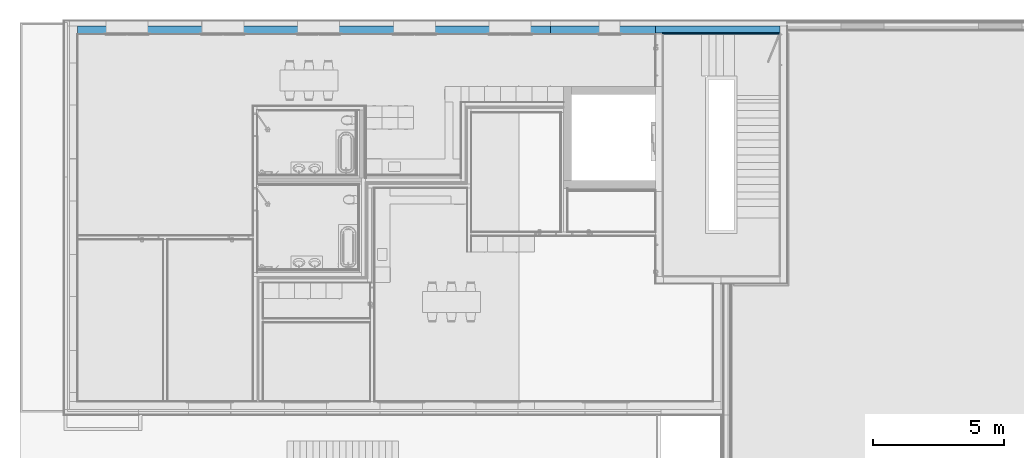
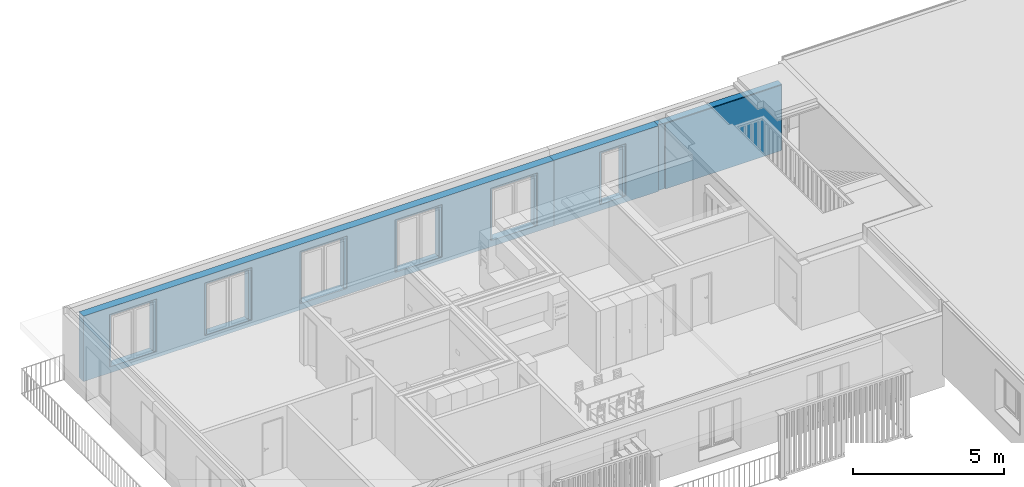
# One storey, part 19 of 34: 4 building element parts, 6 openings, 3 elements without a shape of their own.
"""IFC4 building model written with IfcOpenShell, lengths in millimetres."""

import ifcopenshell
import ifcopenshell.guid

model = None  # the IFC model being written
_history = None  # IfcOwnerHistory: only IFC2X3 demands one
_inside = {}  # id of a spatial element -> (the spatial element, [elements in it])
_under = {}  # id of a project, library or spatial element -> (it, [spatial elements below it])
_declared = {}  # id of a project -> (the project, [libraries it declares])
_typed = {}  # id of a type object -> (the type object, [elements of that type])
_made_of = {}  # id of a material, layer set ... -> (it, [elements and type objects made of it])


def new_model(schema):
    """Start an empty IFC model of exactly this schema.

    Asked for "IFC4X3", IfcOpenShell would pick the latest addendum, in which some entities
    have other attributes; the version numbers below select the first issue.
    IFC2X3 requires an IfcOwnerHistory on every rooted entity: one is made here for all.
    """
    global model, _history
    if schema == "IFC4X3":
        model = ifcopenshell.file(schema_version=(4, 3, 0, 0))
    else:
        model = ifcopenshell.file(schema=schema)
    _inside.clear()
    _under.clear()
    _declared.clear()
    _typed.clear()
    _made_of.clear()
    _history = None
    if model.schema == "IFC2X3":
        org = make("IfcOrganization", Name="unknown")
        user = make(
            "IfcPersonAndOrganization",
            ThePerson=make("IfcPerson", FamilyName="unknown"),
            TheOrganization=org,
        )
        app = make(
            "IfcApplication",
            ApplicationDeveloper=org,
            Version="unknown",
            ApplicationFullName="unknown",
            ApplicationIdentifier="unknown",
        )
        _history = make(
            "IfcOwnerHistory",
            OwningUser=user,
            OwningApplication=app,
            ChangeAction="ADDED",
            CreationDate=0,
        )
    return model


def make(cls, **values):
    """One entity of the class cls with the attributes given. An attribute that is None is left unset."""
    return model.create_entity(
        cls, **{name: value for name, value in values.items() if value is not None}
    )


def entity(cls, *values):
    """Any entity or typed value of the class cls, its attributes in the order of the schema. None: left unset."""
    e = model.create_entity(cls)
    for i, value in enumerate(values):
        if value is not None:
            e[i] = value
    return e


def rooted(cls, **values):
    """An entity with a GlobalId (a new one), such as an element, a storey or a relation."""
    return make(cls, GlobalId=ifcopenshell.guid.new(), OwnerHistory=_history, **values)


def si_unit(unit_type, name, prefix=None):
    """IfcSIUnit, for example si_unit("LENGTHUNIT", "METRE", prefix="MILLI")."""
    return make("IfcSIUnit", UnitType=unit_type, Prefix=prefix, Name=name)


def converted_unit(unit_type, name, factor, base, dimensions=None, offset=None):
    """IfcConversionBasedUnit, such as the inch: factor (a typed value) times the base unit."""
    return make(
        "IfcConversionBasedUnit"
        if offset is None
        else "IfcConversionBasedUnitWithOffset",
        ConversionOffset=offset,
        Dimensions=None
        if dimensions is None
        else entity("IfcDimensionalExponents", *dimensions),
        UnitType=unit_type,
        Name=name,
        ConversionFactor=make(
            "IfcMeasureWithUnit", ValueComponent=factor, UnitComponent=base
        ),
    )


def derived_unit(unit_type, elements):
    """IfcDerivedUnit: a product of units, each with its exponent."""
    return make(
        "IfcDerivedUnit",
        Elements=[
            make("IfcDerivedUnitElement", Unit=unit, Exponent=power)
            for unit, power in elements
        ],
        UnitType=unit_type,
    )


def assignment(units):
    """IfcUnitAssignment: the units of a project."""
    return None if units is None else make("IfcUnitAssignment", Units=units)


def point(xyz):
    """IfcCartesianPoint."""
    return None if xyz is None else make("IfcCartesianPoint", Coordinates=xyz)


def direction(xyz):
    """IfcDirection."""
    return None if xyz is None else make("IfcDirection", DirectionRatios=xyz)


def frame(location, z_axis=None, x_axis=None):
    """IfcAxis2Placement3D, a coordinate frame: its origin and axes. An axis left out is left unset."""
    return make(
        "IfcAxis2Placement3D",
        Location=point(location),
        Axis=direction(z_axis),
        RefDirection=direction(x_axis),
    )


def origin_with_axes():
    """The frame at (0, 0, 0) with the z axis (0, 0, 1) and the x axis (1, 0, 0) written out."""
    return frame((0.0, 0.0, 0.0), z_axis=(0.0, 0.0, 1.0), x_axis=(1.0, 0.0, 0.0))


def place(relative_to, where):
    """IfcLocalPlacement: puts the frame where relative to a parent placement (None: the world)."""
    return make(
        "IfcLocalPlacement", PlacementRelTo=relative_to, RelativePlacement=where
    )


def context(
    kind, dimensions, precision=None, world=None, true_north=None, identifier=None
):
    """IfcGeometricRepresentationContext, for example the 3D "Model" context."""
    return make(
        "IfcGeometricRepresentationContext",
        ContextIdentifier=identifier,
        ContextType=kind,
        CoordinateSpaceDimension=dimensions,
        Precision=precision,
        WorldCoordinateSystem=world,
        TrueNorth=true_north,
    )


def subcontext(parent, identifier, kind, view, scale=None):
    """IfcGeometricRepresentationSubContext, for example "Body" below "Model"."""
    return make(
        "IfcGeometricRepresentationSubContext",
        ContextIdentifier=identifier,
        ContextType=kind,
        ParentContext=parent,
        TargetScale=scale,
        TargetView=view,
    )


def project(units=None, contexts=None):
    """IfcProject with its units and contexts."""
    return rooted(
        "IfcProject",
        Name="project",
        RepresentationContexts=contexts,
        UnitsInContext=assignment(units),
    )


def spatial(cls, under=None, at=None, **own):
    """A site, building, storey or space (cls), placed at a placement, below another one or the project."""
    s = rooted(cls, ObjectPlacement=at, **own)
    if under is not None:
        _under.setdefault(under.id(), (under, []))[1].append(s)
    return s


def point_list(points):
    """IfcCartesianPointList2D or 3D."""
    cls = (
        "IfcCartesianPointList2D" if len(points[0]) == 2 else "IfcCartesianPointList3D"
    )
    return make(cls, CoordList=points)


def polygons(points, faces, closed=None, point_numbers=None):
    """IfcPolygonalFaceSet: a face is its outer loop, then its inner loops; points numbered from 1."""
    made = []
    for loops in faces:
        if len(loops) == 1:
            made.append(make("IfcIndexedPolygonalFace", CoordIndex=loops[0]))
        else:
            made.append(
                make(
                    "IfcIndexedPolygonalFaceWithVoids",
                    CoordIndex=loops[0],
                    InnerCoordIndices=loops[1:],
                )
            )
    return make(
        "IfcPolygonalFaceSet",
        Coordinates=point_list(points),
        Closed=closed,
        Faces=made,
        PnIndex=point_numbers,
    )


def shape(context_of_items, identifier, shape_type, items):
    """IfcShapeRepresentation: the items that make up one representation, for example the "Body"."""
    return make(
        "IfcShapeRepresentation",
        ContextOfItems=context_of_items,
        RepresentationIdentifier=identifier,
        RepresentationType=shape_type,
        Items=items,
    )


def material(Name=None, Category=None):
    """IfcMaterial."""
    return make("IfcMaterial", Name=Name, Category=Category)


def made_of(thing, what):
    """Note that an element or type object is made of a material, layer set ...; save() writes the relation."""
    if what is not None:
        _made_of.setdefault(what.id(), (what, []))[1].append(thing)
    return thing


def type_object(cls, material=None, **own):
    """A type object (cls), such as IfcWallType, which elements share."""
    return made_of(rooted(cls, **own), material)


def element(
    cls,
    number,
    at=None,
    inside=None,
    cuts=None,
    type_object=None,
    material=None,
    context=None,
    identifier="Body",
    shape_type=None,
    held_by="IfcProductDefinitionShape",
    body=None,
    shapes=None,
    **own,
):
    """One element of the class cls, such as IfcWall. Its Tag is "e" and its number.

    at: its placement. inside: the storey or other place that contains it. cuts: it is an
    opening in that element (IfcRelVoidsElement). A single representation is given by context,
    identifier, shape_type and body (its items); several are given by shapes. held_by: the class
    of the entity that holds the representations. save() writes the other relations.
    """
    e = rooted(cls, Tag="e%d" % number, ObjectPlacement=at, **own)
    if body is not None:
        shapes = [shape(context, identifier, shape_type, body)]
    if shapes is not None:
        e.Representation = make(held_by, Representations=shapes)
    if inside is not None:
        _inside.setdefault(inside.id(), (inside, []))[1].append(e)
    if cuts is not None:
        rooted(
            "IfcRelVoidsElement", RelatingBuildingElement=cuts, RelatedOpeningElement=e
        )
    if type_object is not None:
        _typed.setdefault(type_object.id(), (type_object, []))[1].append(e)
    return made_of(e, material)


def aggregate(whole, parts):
    """IfcRelAggregates: a whole, such as a stair, and the parts it consists of."""
    return rooted("IfcRelAggregates", RelatingObject=whole, RelatedObjects=parts)


def save(model, path):
    """Write the relations noted so far, then the file.

    IfcRelAggregates (storeys below a building ...), IfcRelContainedInSpatialStructure (elements
    in a storey), IfcRelDefinesByType, IfcRelAssociatesMaterial and IfcRelDeclares: one each for
    every whole, place, type object, material and project.
    """
    for whole, parts in _under.values():
        aggregate(whole, parts)
    for where, things in _inside.values():
        rooted(
            "IfcRelContainedInSpatialStructure",
            RelatedElements=things,
            RelatingStructure=where,
        )
    for kind, things in _typed.values():
        rooted("IfcRelDefinesByType", RelatedObjects=things, RelatingType=kind)
    for what, things in _made_of.values():
        rooted("IfcRelAssociatesMaterial", RelatedObjects=things, RelatingMaterial=what)
    for by, libraries in _declared.values():
        rooted("IfcRelDeclares", RelatingContext=by, RelatedDefinitions=libraries)
    model.write(path)


model = new_model("IFC4")

# Units and contexts
model_context = context("Model", 3, precision=0.01, world=origin_with_axes(), true_north=direction((0.0, 1.0)))
body_context = subcontext(model_context, "Body", "Model", "MODEL_VIEW")
ifc_project = project(units=[si_unit("LENGTHUNIT", "METRE", prefix="MILLI"), si_unit("AREAUNIT", "SQUARE_METRE"), si_unit("VOLUMEUNIT", "CUBIC_METRE"), converted_unit("PLANEANGLEUNIT", "DEGREE", entity("IfcPlaneAngleMeasure", 0.0174532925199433), si_unit("PLANEANGLEUNIT", "RADIAN"), dimensions=[0, 0, 0, 0, 0, 0, 0]), converted_unit("TIMEUNIT", "Year", entity("IfcTimeMeasure", 31557600.0), si_unit("TIMEUNIT", "SECOND"), dimensions=[0, 0, 1, 0, 0, 0, 0]), si_unit("MASSUNIT", "GRAM", prefix="KILO"), si_unit("THERMODYNAMICTEMPERATUREUNIT", "DEGREE_CELSIUS"), si_unit("LUMINOUSINTENSITYUNIT", "LUMEN"), si_unit("ENERGYUNIT", "JOULE", prefix="MEGA"), derived_unit("THERMALCONDUCTANCEUNIT", [(si_unit("POWERUNIT", "WATT"), 1), (si_unit("LENGTHUNIT", "METRE"), -1), (si_unit("THERMODYNAMICTEMPERATUREUNIT", "KELVIN"), -1)]), derived_unit("SPECIFICHEATCAPACITYUNIT", [(si_unit("ENERGYUNIT", "JOULE"), 1), (si_unit("MASSUNIT", "GRAM", prefix="KILO"), -1), (si_unit("THERMODYNAMICTEMPERATUREUNIT", "KELVIN"), -1)]), derived_unit("MASSDENSITYUNIT", [(si_unit("MASSUNIT", "GRAM", prefix="KILO"), 1), (si_unit("VOLUMEUNIT", "CUBIC_METRE"), -1)])], contexts=[model_context])

# Site, building, storey
site_placement = place(None, origin_with_axes())
site = spatial("IfcSite", under=ifc_project, at=site_placement, Name="Gelände", CompositionType="ELEMENT")
building_placement = place(site_placement, origin_with_axes())
building = spatial("IfcBuilding", under=site, at=building_placement, Name="Gebäude", CompositionType="ELEMENT")
storey_placement = place(building_placement, frame((0.0, 0.0, 2900.0), z_axis=(0.0, 0.0, 1.0), x_axis=(1.0, 0.0, 0.0)))
storey = spatial("IfcBuildingStorey", under=building, at=storey_placement, Name="1.OG", CompositionType="ELEMENT", Elevation=2900.0)

# Wall, opening, building element part
wall_type_1 = type_object("IfcWallType", Name="Aussenwand Typ 06 310", PredefinedType="NOTDEFINED")
wall_1_placement = place(storey_placement, frame((11428.998626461, 37427.59728131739, 0.0), z_axis=(0.0, 0.0, 1.0), x_axis=(1.0, 0.0, 0.0)))
wall_1 = element("IfcWall", 1, at=wall_1_placement, inside=storey, type_object=wall_type_1, Name="Wand-014", PredefinedType="NOTDEFINED")
opening_1_placement = place(wall_1_placement, frame((2249.998818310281, 0.0, 309.999948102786), z_axis=(0.0, 0.0, 1.0), x_axis=(1.0, 0.0, 0.0)))
element("IfcOpeningElement", 2, at=opening_1_placement, cuts=wall_1, Name="Fenster-004", context=body_context, identifier="Reference", shape_type="Tessellation", body=[
    polygons([(400.0000000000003, 310.9999999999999, 1959.999999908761), (400.0000000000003, 310.9999999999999, 1961.999999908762), (401.9999999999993, 310.9999999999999, 1961.999999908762), (401.9999999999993, 310.9999999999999, -60.00000000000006), (-401.9999999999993, 310.9999999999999, -60.00000000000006), (-401.9999999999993, 310.9999999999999, 1961.999999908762), (-400.0000000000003, 310.9999999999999, 1961.999999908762), (-400.0000000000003, 310.9999999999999, 1959.999999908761), (400.0000000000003, 310.0000000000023, 1961.999999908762), (400.0000000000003, 460.0000000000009, 1959.999999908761), (400.0000000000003, 460.0000000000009, 2249.999999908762), (400.0000000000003, 310.0000000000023, 2249.999999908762), (-400.0000000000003, 310.0000000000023, 1961.999999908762), (-401.9999999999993, 60.00000000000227, 1961.999999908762), (401.9999999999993, 60.00000000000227, 1961.999999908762), (401.9999999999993, 60.00000000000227, -60.00000000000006), (-401.9999999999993, 60.00000000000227, -60.00000000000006), (-400.0000000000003, 310.0000000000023, 2249.999999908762), (-400.0000000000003, 460.0000000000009, 2249.999999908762), (-400.0000000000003, 460.0000000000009, 1959.999999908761), (-502.0000000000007, 60.00000000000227, -60.00000000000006), (-502.0000000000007, 60.00000000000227, 2061.999999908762), (502.0000000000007, 60.00000000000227, 2061.999999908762), (502.0000000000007, 60.00000000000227, -60.00000000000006), (502.0000000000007, -0.9999999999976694, -60.00000000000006), (-502.0000000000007, -0.9999999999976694, -60.00000000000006), (-502.0000000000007, -0.9999999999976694, 2061.999999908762), (502.0000000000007, -0.9999999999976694, 2061.999999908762)], [[[1, 2, 3, 4, 5, 6, 7, 8]], [[9, 2, 1, 10, 11, 12]], [[13, 7, 6, 14, 15, 3, 2, 9]], [[15, 16, 4, 3]], [[16, 17, 5, 4]], [[17, 14, 6, 5]], [[8, 7, 13, 18, 19, 20]], [[1, 8, 20, 10]], [[20, 19, 11, 10]], [[19, 18, 12, 11]], [[13, 9, 12, 18]], [[16, 15, 14, 17, 21, 22, 23, 24]], [[17, 16, 24, 25, 26, 21]], [[22, 21, 26, 27]], [[23, 22, 27, 28]], [[24, 23, 28, 25]], [[27, 26, 25, 28]]], closed=True),
])
ifc_material_1 = material(Name="Beton bewehrt")
building_element_part_1_placement = place(wall_1_placement, origin_with_axes())
building_element_part_1 = element("IfcBuildingElementPart", 3, at=building_element_part_1_placement, material=ifc_material_1, Name="Beton bewehrt", PredefinedType="NOTDEFINED", context=body_context, shape_type="Tessellation", body=[
    polygons([(2651.998818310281, 60.00000000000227, 249.9999481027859), (2651.998818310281, 60.00000000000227, 2271.999948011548), (2651.998818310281, 310.0000000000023, 2271.999948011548), (2651.998818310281, 310.0000000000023, 249.9999481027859), (1847.998818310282, 60.00000000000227, 2271.999948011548), (2751.998818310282, 60.00000000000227, 249.9999481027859), (2751.998818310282, 60.00000000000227, 2371.999948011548), (1747.998818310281, 60.00000000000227, 2371.999948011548), (1747.998818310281, 60.00000000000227, 249.9999481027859), (1847.998818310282, 60.00000000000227, 249.9999481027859), (1847.998818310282, 310.0000000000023, 2271.999948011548), (0.0, 310.0000000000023, 0.0), (0.0, 310.0000000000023, 2649.999999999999), (3999.998818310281, 310.0000000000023, 2649.999999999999), (3999.998818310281, 310.0000000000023, 0.0), (1847.998818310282, 310.0000000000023, 249.9999481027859), (1747.998818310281, 9.99999999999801, 249.9999481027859), (2751.998818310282, 9.99999999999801, 249.9999481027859), (2751.998818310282, 9.99999999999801, 2371.999948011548), (1747.998818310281, 9.99999999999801, 2371.999948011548), (0.0, 9.99999999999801, 0.0), (0.0, 9.99999999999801, 2649.999999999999), (3999.998818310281, 9.99999999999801, 2649.999999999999), (3999.998818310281, 9.99999999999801, 0.0)], [[[1, 2, 3, 4]], [[5, 2, 1, 6, 7, 8, 9, 10]], [[2, 5, 11, 3]], [[12, 13, 14, 15], [4, 3, 11, 16]], [[10, 1, 4, 16]], [[17, 18, 6, 1, 10, 9]], [[18, 19, 7, 6]], [[19, 20, 8, 7]], [[20, 17, 9, 8]], [[5, 10, 16, 11]], [[13, 12, 21, 22]], [[13, 22, 23, 14]], [[24, 15, 14, 23]], [[21, 12, 15, 24]], [[22, 21, 24, 23], [17, 20, 19, 18]]], closed=True),
])
aggregate(wall_1, [building_element_part_1])

# Wall, openings, building element part
wall_2_placement = place(storey_placement, frame((-6861.004181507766, 37737.5972813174, 0.0), z_axis=(0.0, 0.0, 1.0), x_axis=(1.0, 0.0, 0.0)))
wall_2 = element("IfcWall", 4, at=wall_2_placement, inside=storey, type_object=wall_type_1, Name="Wand-014", PredefinedType="NOTDEFINED")
opening_2_placement = place(wall_2_placement, frame((2191.999999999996, 0.0, 309.999948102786), z_axis=(0.0, 0.0, 1.0), x_axis=(1.0, 0.0, 0.0)))
element("IfcOpeningElement", 5, at=opening_2_placement, cuts=wall_2, Name="Fenster-004", context=body_context, identifier="Reference", shape_type="Tessellation", body=[
    polygons([(800.0000000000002, 0.9999999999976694, 1959.999999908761), (800.0000000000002, 0.9999999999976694, 1961.999999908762), (802.0, 0.9999999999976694, 1961.999999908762), (802.0, 0.9999999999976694, -60.00000000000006), (-802.0000000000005, 0.9999999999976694, -60.00000000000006), (-802.0000000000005, 0.9999999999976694, 1961.999999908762), (-799.9999999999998, 0.9999999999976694, 1961.999999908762), (-799.9999999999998, 0.9999999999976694, 1959.999999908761), (800.0000000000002, 0.0, 1961.999999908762), (800.0000000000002, 149.9999999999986, 1959.999999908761), (800.0000000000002, 149.9999999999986, 2249.999999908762), (800.0000000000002, 0.0, 2249.999999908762), (-799.9999999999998, 0.0, 1961.999999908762), (-802.0000000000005, -250.0, 1961.999999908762), (802.0, -250.0, 1961.999999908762), (802.0, -250.0, -60.00000000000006), (-802.0000000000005, -250.0, -60.00000000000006), (-799.9999999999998, 0.0, 2249.999999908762), (-799.9999999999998, 149.9999999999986, 2249.999999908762), (-799.9999999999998, 149.9999999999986, 1959.999999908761), (-902.0000000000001, -250.0, -60.00000000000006), (-902.0000000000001, -250.0, 2061.999999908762), (902.0000000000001, -250.0, 2061.999999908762), (902.0000000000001, -250.0, -60.00000000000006), (902.0000000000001, -310.9999999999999, -60.00000000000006), (-902.0000000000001, -310.9999999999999, -60.00000000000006), (-902.0000000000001, -310.9999999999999, 2061.999999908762), (902.0000000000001, -310.9999999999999, 2061.999999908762)], [[[1, 2, 3, 4, 5, 6, 7, 8]], [[9, 2, 1, 10, 11, 12]], [[13, 7, 6, 14, 15, 3, 2, 9]], [[15, 16, 4, 3]], [[16, 17, 5, 4]], [[17, 14, 6, 5]], [[8, 7, 13, 18, 19, 20]], [[1, 8, 20, 10]], [[20, 19, 11, 10]], [[19, 18, 12, 11]], [[13, 9, 12, 18]], [[16, 15, 14, 17, 21, 22, 23, 24]], [[17, 16, 24, 25, 26, 21]], [[22, 21, 26, 27]], [[23, 22, 27, 28]], [[24, 23, 28, 25]], [[27, 26, 25, 28]]], closed=True),
])
opening_3_placement = place(wall_2_placement, frame((5833.999999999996, 0.0, 309.999948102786), z_axis=(0.0, 0.0, 1.0), x_axis=(1.0, 0.0, 0.0)))
element("IfcOpeningElement", 6, at=opening_3_placement, cuts=wall_2, Name="Fenster-004", context=body_context, identifier="Reference", shape_type="Tessellation", body=[
    polygons([(800.0000000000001, 0.9999999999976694, 1959.999999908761), (800.0000000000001, 0.9999999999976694, 1961.999999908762), (802.0000000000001, 0.9999999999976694, 1961.999999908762), (802.0000000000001, 0.9999999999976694, -60.00000000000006), (-802.0, 0.9999999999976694, -60.00000000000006), (-802.0, 0.9999999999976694, 1961.999999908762), (-800.0000000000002, 0.9999999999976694, 1961.999999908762), (-800.0000000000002, 0.9999999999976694, 1959.999999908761), (800.0000000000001, 0.0, 1961.999999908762), (800.0000000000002, 149.9999999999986, 1959.999999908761), (800.0000000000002, 149.9999999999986, 2249.999999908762), (800.0000000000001, 0.0, 2249.999999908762), (-800.0000000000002, 0.0, 1961.999999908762), (-802.0, -250.0, 1961.999999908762), (802.0000000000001, -250.0, 1961.999999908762), (802.0000000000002, -250.0, -60.00000000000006), (-802.0, -250.0, -60.00000000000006), (-800.0000000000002, 0.0, 2249.999999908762), (-800.0, 149.9999999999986, 2249.999999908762), (-800.0, 149.9999999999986, 1959.999999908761), (-902.0000000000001, -250.0, -60.00000000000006), (-902.0000000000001, -250.0, 2061.999999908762), (902.0000000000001, -250.0, 2061.999999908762), (902.0000000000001, -250.0, -60.00000000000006), (902.0000000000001, -310.9999999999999, -60.00000000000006), (-902.0000000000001, -310.9999999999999, -60.00000000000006), (-902.0000000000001, -310.9999999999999, 2061.999999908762), (902.0000000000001, -310.9999999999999, 2061.999999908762)], [[[1, 2, 3, 4, 5, 6, 7, 8]], [[9, 2, 1, 10, 11, 12]], [[13, 7, 6, 14, 15, 3, 2, 9]], [[15, 16, 4, 3]], [[16, 17, 5, 4]], [[17, 14, 6, 5]], [[8, 7, 13, 18, 19, 20]], [[1, 8, 20, 10]], [[20, 19, 11, 10]], [[19, 18, 12, 11]], [[13, 9, 12, 18]], [[16, 15, 14, 17, 21, 22, 23, 24]], [[17, 16, 24, 25, 26, 21]], [[22, 21, 26, 27]], [[23, 22, 27, 28]], [[24, 23, 28, 25]], [[27, 26, 25, 28]]], closed=True),
])
opening_4_placement = place(wall_2_placement, frame((13118.0, 0.0, 309.999948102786), z_axis=(0.0, 0.0, 1.0), x_axis=(1.0, 0.0, 0.0)))
element("IfcOpeningElement", 7, at=opening_4_placement, cuts=wall_2, Name="Fenster-004", context=body_context, identifier="Reference", shape_type="Tessellation", body=[
    polygons([(799.9999999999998, 0.9999999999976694, 1959.999999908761), (799.9999999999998, 0.9999999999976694, 1961.999999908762), (802.0000000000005, 0.9999999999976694, 1961.999999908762), (802.0000000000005, 0.9999999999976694, -60.00000000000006), (-802.0000000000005, 0.9999999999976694, -60.00000000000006), (-802.0000000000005, 0.9999999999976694, 1961.999999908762), (-800.0000000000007, 0.9999999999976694, 1961.999999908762), (-800.0000000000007, 0.9999999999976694, 1959.999999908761), (799.9999999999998, 0.0, 1961.999999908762), (799.9999999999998, 149.9999999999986, 1959.999999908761), (799.9999999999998, 149.9999999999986, 2249.999999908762), (799.9999999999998, 0.0, 2249.999999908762), (-800.0000000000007, 0.0, 1961.999999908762), (-802.0000000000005, -250.0, 1961.999999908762), (802.0000000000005, -250.0, 1961.999999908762), (802.0000000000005, -250.0, -60.00000000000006), (-802.0000000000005, -250.0, -60.00000000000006), (-800.0000000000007, 0.0, 2249.999999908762), (-800.0000000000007, 149.9999999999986, 2249.999999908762), (-800.0000000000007, 149.9999999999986, 1959.999999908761), (-902.0000000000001, -250.0, -60.00000000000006), (-902.0000000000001, -250.0, 2061.999999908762), (902.0000000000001, -250.0, 2061.999999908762), (902.0000000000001, -250.0, -60.00000000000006), (902.0000000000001, -310.9999999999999, -60.00000000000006), (-902.0000000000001, -310.9999999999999, -60.00000000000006), (-902.0000000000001, -310.9999999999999, 2061.999999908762), (902.0000000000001, -310.9999999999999, 2061.999999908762)], [[[1, 2, 3, 4, 5, 6, 7, 8]], [[9, 2, 1, 10, 11, 12]], [[13, 7, 6, 14, 15, 3, 2, 9]], [[15, 16, 4, 3]], [[16, 17, 5, 4]], [[17, 14, 6, 5]], [[8, 7, 13, 18, 19, 20]], [[1, 8, 20, 10]], [[20, 19, 11, 10]], [[19, 18, 12, 11]], [[13, 9, 12, 18]], [[16, 15, 14, 17, 21, 22, 23, 24]], [[17, 16, 24, 25, 26, 21]], [[22, 21, 26, 27]], [[23, 22, 27, 28]], [[24, 23, 28, 25]], [[27, 26, 25, 28]]], closed=True),
])
opening_5_placement = place(wall_2_placement, frame((16759.99999999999, 0.0, 309.999948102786), z_axis=(0.0, 0.0, 1.0), x_axis=(1.0, 0.0, 0.0)))
element("IfcOpeningElement", 8, at=opening_5_placement, cuts=wall_2, Name="Fenster-004", context=body_context, identifier="Reference", shape_type="Tessellation", body=[
    polygons([(800.0000000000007, 0.9999999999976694, 1959.999999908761), (800.0000000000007, 0.9999999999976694, 1961.999999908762), (801.9999999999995, 0.9999999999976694, 1961.999999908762), (801.9999999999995, 0.9999999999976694, -60.00000000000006), (-801.9999999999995, 0.9999999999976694, -60.00000000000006), (-801.9999999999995, 0.9999999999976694, 1961.999999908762), (-799.999999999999, 0.9999999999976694, 1961.999999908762), (-799.999999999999, 0.9999999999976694, 1959.999999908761), (800.0000000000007, 0.0, 1961.999999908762), (800.0000000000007, 149.9999999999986, 1959.999999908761), (800.0000000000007, 149.9999999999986, 2249.999999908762), (800.0000000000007, 0.0, 2249.999999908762), (-799.999999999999, 0.0, 1961.999999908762), (-801.9999999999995, -250.0, 1961.999999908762), (801.9999999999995, -250.0, 1961.999999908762), (801.9999999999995, -250.0, -60.00000000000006), (-801.9999999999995, -250.0, -60.00000000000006), (-799.999999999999, 0.0, 2249.999999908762), (-799.999999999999, 149.9999999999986, 2249.999999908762), (-799.999999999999, 149.9999999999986, 1959.999999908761), (-902.000000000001, -250.0, -60.00000000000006), (-902.000000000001, -250.0, 2061.999999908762), (902.000000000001, -250.0, 2061.999999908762), (902.000000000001, -250.0, -60.00000000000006), (902.000000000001, -310.9999999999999, -60.00000000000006), (-902.000000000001, -310.9999999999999, -60.00000000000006), (-902.000000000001, -310.9999999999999, 2061.999999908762), (902.000000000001, -310.9999999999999, 2061.999999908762)], [[[1, 2, 3, 4, 5, 6, 7, 8]], [[9, 2, 1, 10, 11, 12]], [[13, 7, 6, 14, 15, 3, 2, 9]], [[15, 16, 4, 3]], [[16, 17, 5, 4]], [[17, 14, 6, 5]], [[8, 7, 13, 18, 19, 20]], [[1, 8, 20, 10]], [[20, 19, 11, 10]], [[19, 18, 12, 11]], [[13, 9, 12, 18]], [[16, 15, 14, 17, 21, 22, 23, 24]], [[17, 16, 24, 25, 26, 21]], [[22, 21, 26, 27]], [[23, 22, 27, 28]], [[24, 23, 28, 25]], [[27, 26, 25, 28]]], closed=True),
])
opening_6_placement = place(wall_2_placement, frame((9475.999999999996, 0.0, 309.999948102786), z_axis=(0.0, 0.0, 1.0), x_axis=(1.0, 0.0, 0.0)))
element("IfcOpeningElement", 9, at=opening_6_placement, cuts=wall_2, Name="Fenster-004", context=body_context, identifier="Reference", shape_type="Tessellation", body=[
    polygons([(800.0000000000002, 0.9999999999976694, 1959.999999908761), (800.0000000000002, 0.9999999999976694, 1961.999999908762), (802.0, 0.9999999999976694, 1961.999999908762), (802.0, 0.9999999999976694, -60.00000000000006), (-802.0, 0.9999999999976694, -60.00000000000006), (-802.0, 0.9999999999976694, 1961.999999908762), (-800.0, 0.9999999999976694, 1961.999999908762), (-800.0, 0.9999999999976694, 1959.999999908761), (800.0000000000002, 0.0, 1961.999999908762), (800.0000000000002, 149.9999999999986, 1959.999999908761), (800.0000000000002, 149.9999999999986, 2249.999999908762), (800.0000000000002, 0.0, 2249.999999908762), (-800.0, 0.0, 1961.999999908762), (-802.0, -250.0, 1961.999999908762), (802.0, -250.0, 1961.999999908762), (802.0000000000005, -250.0, -60.00000000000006), (-802.0, -250.0, -60.00000000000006), (-800.0, 0.0, 2249.999999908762), (-800.0, 149.9999999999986, 2249.999999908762), (-800.0, 149.9999999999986, 1959.999999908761), (-902.0000000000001, -250.0, -60.00000000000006), (-902.0000000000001, -250.0, 2061.999999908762), (902.0000000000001, -250.0, 2061.999999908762), (902.0000000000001, -250.0, -60.00000000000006), (902.0000000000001, -310.9999999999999, -60.00000000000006), (-902.0000000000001, -310.9999999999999, -60.00000000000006), (-902.0000000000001, -310.9999999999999, 2061.999999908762), (902.0000000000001, -310.9999999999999, 2061.999999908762)], [[[1, 2, 3, 4, 5, 6, 7, 8]], [[9, 2, 1, 10, 11, 12]], [[13, 7, 6, 14, 15, 3, 2, 9]], [[15, 16, 4, 3]], [[16, 17, 5, 4]], [[17, 14, 6, 5]], [[8, 7, 13, 18, 19, 20]], [[1, 8, 20, 10]], [[20, 19, 11, 10]], [[19, 18, 12, 11]], [[13, 9, 12, 18]], [[16, 15, 14, 17, 21, 22, 23, 24]], [[17, 16, 24, 25, 26, 21]], [[22, 21, 26, 27]], [[23, 22, 27, 28]], [[24, 23, 28, 25]], [[27, 26, 25, 28]]], closed=True),
])
building_element_part_2_placement = place(wall_2_placement, origin_with_axes())
building_element_part_2 = element("IfcBuildingElementPart", 10, at=building_element_part_2_placement, material=ifc_material_1, Name="Beton bewehrt", PredefinedType="NOTDEFINED", context=body_context, shape_type="Tessellation", body=[
    polygons([(17561.99999999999, -250.0, 249.9999481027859), (17561.99999999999, -250.0, 2271.999948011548), (17561.99999999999, 0.0, 2271.999948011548), (17561.99999999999, 0.0, 249.9999481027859), (15957.99999999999, -250.0, 2271.999948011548), (17662.0, -250.0, 249.9999481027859), (17662.0, -250.0, 2371.999948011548), (15857.99999999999, -250.0, 2371.999948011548), (15857.99999999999, -250.0, 249.9999481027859), (15957.99999999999, -250.0, 249.9999481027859), (15957.99999999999, 0.0, 2271.999948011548), (299.9999999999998, 0.0, 0.0), (299.9999999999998, 0.0, 2649.999999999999), (18290.00280796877, 0.0, 2649.999999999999), (18290.00280796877, 0.0, 0.0), (2993.999999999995, 0.0, 249.9999481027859), (2993.999999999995, 0.0, 2271.999948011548), (1389.999999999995, 0.0, 2271.999948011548), (1389.999999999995, 0.0, 249.9999481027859), (5031.999999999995, 0.0, 2271.999948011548), (5031.999999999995, 0.0, 249.9999481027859), (6635.999999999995, 0.0, 249.9999481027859), (6635.999999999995, 0.0, 2271.999948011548), (10277.99999999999, 0.0, 249.9999481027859), (10277.99999999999, 0.0, 2271.999948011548), (8673.999999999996, 0.0, 2271.999948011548), (8673.999999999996, 0.0, 249.9999481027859), (12315.99999999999, 0.0, 2271.999948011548), (12315.99999999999, 0.0, 249.9999481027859), (13920.0, 0.0, 249.9999481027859), (13920.0, 0.0, 2271.999948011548), (15957.99999999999, 0.0, 249.9999481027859), (15857.99999999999, -299.9999999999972, 249.9999481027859), (17662.0, -299.9999999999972, 249.9999481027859), (17662.0, -299.9999999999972, 2371.999948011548), (15857.99999999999, -299.9999999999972, 2371.999948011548), (299.9999999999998, -299.9999999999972, 0.0), (299.9999999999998, -299.9999999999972, 2649.999999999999), (18290.00280796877, -299.9999999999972, 2649.999999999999), (18290.00280796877, -299.9999999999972, 0.0), (2993.999999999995, -250.0, 249.9999481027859), (2993.999999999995, -250.0, 2271.999948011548), (1389.999999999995, -250.0, 2271.999948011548), (1389.999999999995, -250.0, 249.9999481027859), (5031.999999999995, -250.0, 2271.999948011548), (5031.999999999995, -250.0, 249.9999481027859), (6635.999999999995, -250.0, 249.9999481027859), (6635.999999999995, -250.0, 2271.999948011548), (10277.99999999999, -250.0, 249.9999481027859), (10277.99999999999, -250.0, 2271.999948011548), (8673.999999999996, -250.0, 2271.999948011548), (8673.999999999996, -250.0, 249.9999481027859), (12315.99999999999, -250.0, 2271.999948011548), (12315.99999999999, -250.0, 249.9999481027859), (13920.0, -250.0, 249.9999481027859), (13920.0, -250.0, 2271.999948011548), (1289.999999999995, -299.9999999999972, 249.9999481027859), (1289.999999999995, -299.9999999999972, 2371.999948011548), (3093.999999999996, -299.9999999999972, 2371.999948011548), (3093.999999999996, -299.9999999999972, 249.9999481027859), (6735.999999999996, -299.9999999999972, 2371.999948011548), (6735.999999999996, -299.9999999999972, 249.9999481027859), (4931.999999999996, -299.9999999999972, 249.9999481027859), (4931.999999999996, -299.9999999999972, 2371.999948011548), (8573.999999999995, -299.9999999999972, 249.9999481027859), (8573.999999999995, -299.9999999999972, 2371.999948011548), (10378.0, -299.9999999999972, 2371.999948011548), (10378.0, -299.9999999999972, 249.9999481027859), (14020.0, -299.9999999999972, 2371.999948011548), (14020.0, -299.9999999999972, 249.9999481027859), (12216.0, -299.9999999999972, 249.9999481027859), (12216.0, -299.9999999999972, 2371.999948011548), (3093.999999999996, -250.0, 249.9999481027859), (3093.999999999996, -250.0, 2371.999948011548), (1289.999999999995, -250.0, 2371.999948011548), (1289.999999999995, -250.0, 249.9999481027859), (4931.999999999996, -250.0, 249.9999481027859), (6735.999999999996, -250.0, 249.9999481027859), (6735.999999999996, -250.0, 2371.999948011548), (4931.999999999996, -250.0, 2371.999948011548), (10378.0, -250.0, 2371.999948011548), (8573.999999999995, -250.0, 2371.999948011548), (8573.999999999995, -250.0, 249.9999481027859), (10378.0, -250.0, 249.9999481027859), (14020.0, -250.0, 249.9999481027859), (14020.0, -250.0, 2371.999948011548), (12216.0, -250.0, 2371.999948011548), (12216.0, -250.0, 249.9999481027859)], [[[1, 2, 3, 4]], [[5, 2, 1, 6, 7, 8, 9, 10]], [[2, 5, 11, 3]], [[12, 13, 14, 15], [16, 17, 18, 19], [20, 21, 22, 23], [24, 25, 26, 27], [28, 29, 30, 31], [4, 3, 11, 32]], [[10, 1, 4, 32]], [[33, 34, 6, 1, 10, 9]], [[34, 35, 7, 6]], [[35, 36, 8, 7]], [[36, 33, 9, 8]], [[5, 10, 32, 11]], [[12, 37, 38, 13]], [[13, 38, 39, 14]], [[15, 14, 39, 40]], [[37, 12, 15, 40]], [[41, 42, 17, 16]], [[42, 43, 18, 17]], [[43, 44, 19, 18]], [[44, 41, 16, 19]], [[21, 20, 45, 46]], [[22, 21, 46, 47]], [[23, 22, 47, 48]], [[20, 23, 48, 45]], [[49, 50, 25, 24]], [[50, 51, 26, 25]], [[51, 52, 27, 26]], [[52, 49, 24, 27]], [[29, 28, 53, 54]], [[30, 29, 54, 55]], [[31, 30, 55, 56]], [[28, 31, 56, 53]], [[38, 37, 40, 39], [57, 58, 59, 60], [61, 62, 63, 64], [65, 66, 67, 68], [69, 70, 71, 72], [33, 36, 35, 34]], [[43, 42, 41, 73, 74, 75, 76, 44]], [[57, 60, 73, 41, 44, 76]], [[77, 46, 45, 48, 47, 78, 79, 80]], [[63, 62, 78, 47, 46, 77]], [[81, 82, 83, 52, 51, 50, 49, 84]], [[65, 68, 84, 49, 52, 83]], [[55, 85, 86, 87, 88, 54, 53, 56]], [[71, 70, 85, 55, 54, 88]], [[58, 57, 76, 75]], [[59, 58, 75, 74]], [[60, 59, 74, 73]], [[79, 78, 62, 61]], [[77, 80, 64, 63]], [[80, 79, 61, 64]], [[66, 65, 83, 82]], [[67, 66, 82, 81]], [[68, 67, 81, 84]], [[86, 85, 70, 69]], [[88, 87, 72, 71]], [[87, 86, 69, 72]]], closed=True),
])
aggregate(wall_2, [building_element_part_2])

# Wall, building element parts
wall_type_2 = type_object("IfcWallType", Name="Aussenwand Typ 04 300", PredefinedType="NOTDEFINED")
wall_3_placement = place(storey_placement, frame((20128.99744477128, 37437.59728131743, 0.0), z_axis=(0.0, 0.0, 1.0), x_axis=(-1.0, 0.0, 0.0)))
wall_3 = element("IfcWall", 11, at=wall_3_placement, inside=storey, type_object=wall_type_2, Name="Wand-014", PredefinedType="NOTDEFINED")
ifc_material_2 = material(Name="Sichtbeton")
building_element_part_3_placement = place(wall_3_placement, origin_with_axes())
building_element_part_3 = element("IfcBuildingElementPart", 12, at=building_element_part_3_placement, material=ifc_material_2, Name="Sichtbeton", PredefinedType="NOTDEFINED", context=body_context, shape_type="Tessellation", body=[
    polygons([(4439.999999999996, 0.0, 2649.999999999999), (0.0, 0.0, 2649.999999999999), (0.0, -39.99999999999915, 2649.999999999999), (4439.999999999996, -39.99999999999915, 2649.999999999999), (0.0, 0.0, 0.0), (4439.999999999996, 0.0, 0.0), (0.0, -39.99999999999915, 0.0), (4439.999999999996, -39.99999999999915, 0.0)], [[[1, 2, 3, 4]], [[5, 2, 1, 6]], [[7, 3, 2, 5]], [[4, 3, 7, 8]], [[6, 1, 4, 8]], [[8, 7, 5, 6]]], closed=True),
])
building_element_part_4_placement = place(wall_3_placement, origin_with_axes())
building_element_part_4 = element("IfcBuildingElementPart", 13, at=building_element_part_4_placement, material=ifc_material_1, Name="Beton bewehrt", PredefinedType="NOTDEFINED", context=body_context, shape_type="Tessellation", body=[
    polygons([(4699.999999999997, -39.99999999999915, 2649.999999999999), (-39.99999999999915, -39.99999999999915, 2649.999999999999), (-39.99999999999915, -299.9999999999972, 2649.999999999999), (4699.999999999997, -299.9999999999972, 2649.999999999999), (-39.99999999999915, -39.99999999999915, 0.0), (4699.999999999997, -39.99999999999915, 0.0), (-39.99999999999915, -299.9999999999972, 0.0), (4699.999999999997, -299.9999999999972, 0.0)], [[[1, 2, 3, 4]], [[5, 2, 1, 6]], [[7, 3, 2, 5]], [[4, 3, 7, 8]], [[6, 1, 4, 8]], [[8, 7, 5, 6]]], closed=True),
])
aggregate(wall_3, [building_element_part_3, building_element_part_4])

save(model, "model.ifc")
